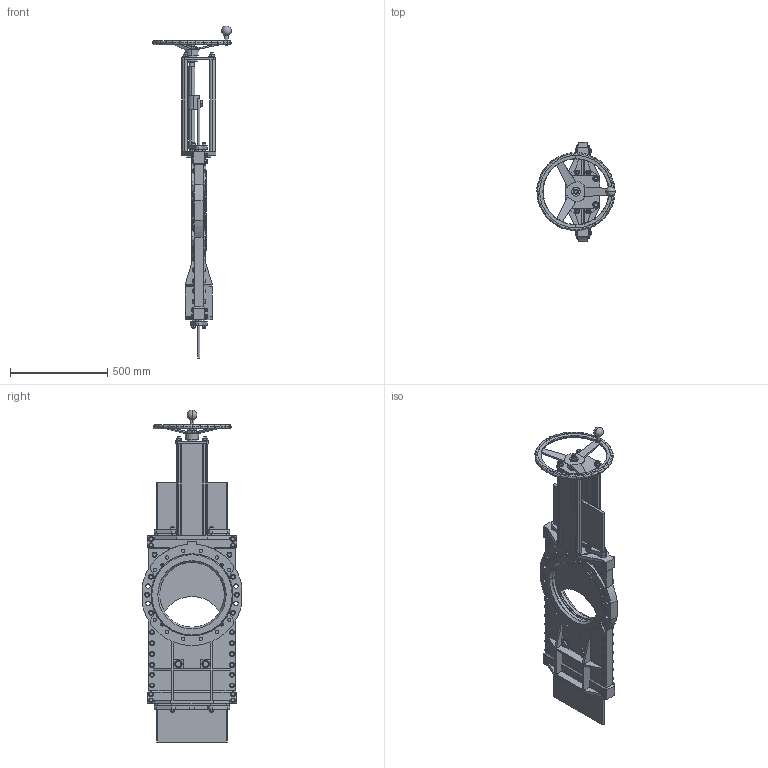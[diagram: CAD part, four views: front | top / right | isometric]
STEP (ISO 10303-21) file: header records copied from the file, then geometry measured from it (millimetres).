
FILE_DESCRIPTION(('STEP AP203'),'1');
FILE_NAME('G:/KONSTRUK/3-d block för CD/HG VALVE/HAND WHEEL/HG350-PN10-HW.stp','2012-12-03T09:49:23',(' '),(' '),'Spatial InterOp 3D',' ',' ');
FILE_SCHEMA(('CONFIG_CONTROL_DESIGN'));
Length unit declared in the file: millimetre
Products named in the file (13): 1; 2; 3; 4; 5; 6; 7; 8; 9; 10; 11; 12; 13
Bounding box: 403 x 510 x 1702.99 mm (x, y, z)
Volume: 24001607.3 mm3; surface area: 4037253.7 mm2
Topology: 13 solids, 39 shells, 3573 faces, 8397 edges, 5251 vertices
Faces by surface type: plane 1370, cone 1205, cylinder 909, torus 87, sphere 2
Entity records: 110086 total; most frequent: CARTESIAN_POINT 27165, DIRECTION 17768, ORIENTED_EDGE 16762, EDGE_CURVE 8381, AXIS2_PLACEMENT_3D 7276, VERTEX_POINT 5251, EDGE_LOOP 4056, CIRCLE 3650
